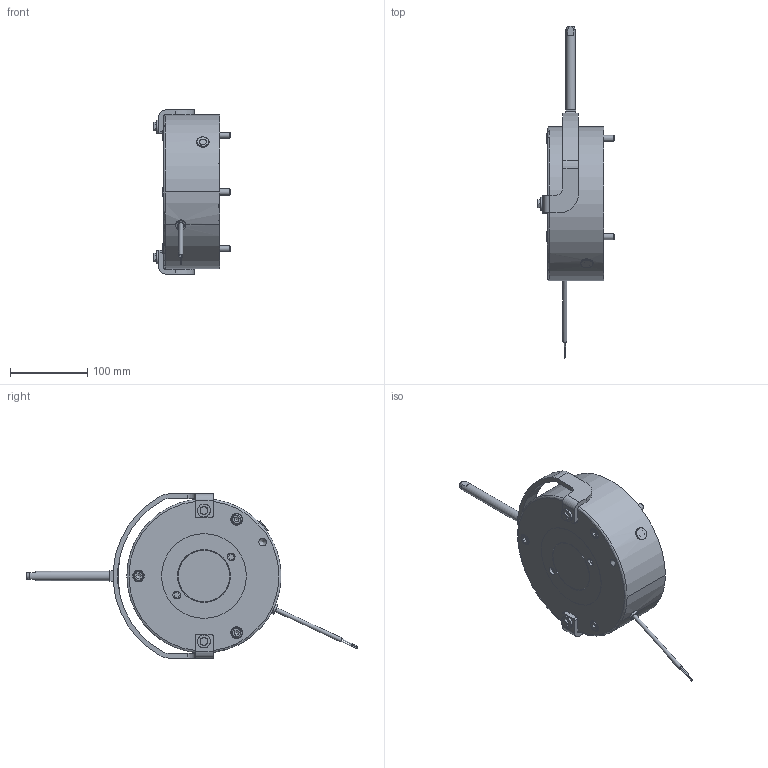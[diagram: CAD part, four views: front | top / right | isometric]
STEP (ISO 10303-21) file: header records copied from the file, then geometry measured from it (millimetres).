
FILE_DESCRIPTION(/* description */ (''),/* implementation_level */ '2;1');
FILE_NAME(/* name */ 'C:\SapWorkDir\Inventor\IP1\ConvertTempPath\5028809_IPT_000.ipt.stp',/* time_stamp */ '2020-09-18T13:30:25+02:00',/* author */ ('STRATE'),/* organization */ (''),/* preprocessor_version */ 'ST-DEVELOPER v17',/* originating_system */ 'Autodesk Inventor 2018',/* authorisation */ '');
FILE_SCHEMA (('AUTOMOTIVE_DESIGN { 1 0 10303 214 3 1 1 }'));
Length unit declared in the file: millimetre
Products named in the file (1): 5028809
Bounding box: 100 x 430.97 x 213 mm (x, y, z)
Volume: 2016226.4 mm3; surface area: 288358.4 mm2
Topology: 3 solids, 3 shells, 661 faces, 1769 edges, 1189 vertices
Faces by surface type: cylinder 319, plane 196, cone 122, torus 24
Full cylindrical faces by diameter (mm): 0.01 x1, 1 x2, 1.85 x2, 5 x1, 5.3 x1, 6 x2, 6.4 x4, 7 x1, 7.2 x2, 7.3 x2, 7.6 x1, 8 x8, 8.2 x3, 8.3 x2, 8.5 x1, 8.6 x3, 8.9 x2, 9.8 x2, 10 x6, 10.106 x2, 11 x2, 12 x1, 13 x5, 13.2 x1, 13.9 x3, 15 x3, 16 x1, 17 x4, 58 x1, 67.9 x1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
Entity records: 22682 total; most frequent: CARTESIAN_POINT 5052, DIRECTION 3630, ORIENTED_EDGE 3538, EDGE_CURVE 1769, AXIS2_PLACEMENT_3D 1512, VERTEX_POINT 1189, CIRCLE 850, EDGE_LOOP 772
